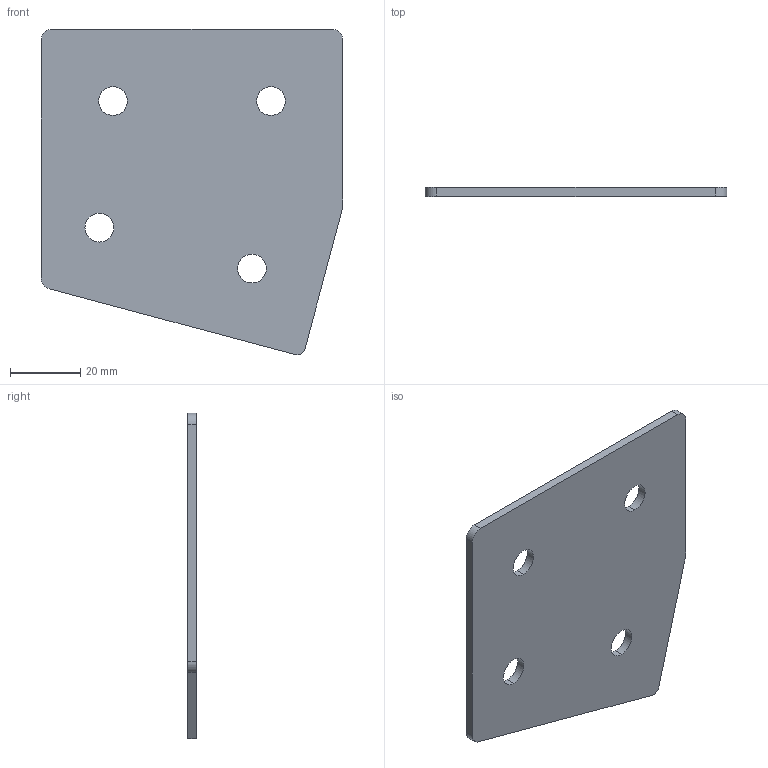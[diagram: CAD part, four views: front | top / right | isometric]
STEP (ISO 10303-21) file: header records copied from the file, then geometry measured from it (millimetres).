
FILE_DESCRIPTION (( 'STEP AP203' ), '1' );
FILE_NAME ('Ï-4-óãîë 15-45.STEP', '2016-07-23T15:58:14', ( '' ), ( '' ), 'SwSTEP 2.0', 'SolidWorks 2014', '' );
FILE_SCHEMA (( 'CONFIG_CONTROL_DESIGN' ));
Length unit declared in the file: millimetre
Products named in the file (1): Ï-4-óãîë 15-45
Bounding box: 86 x 2.5 x 92.8 mm (x, y, z)
Volume: 17043.4 mm3; surface area: 14709.3 mm2
Topology: 1 solids, 1 shells, 20 faces, 54 edges, 36 vertices
Faces by surface type: cylinder 13, plane 7
Entity records: 737 total; most frequent: DIRECTION 122, CARTESIAN_POINT 111, ORIENTED_EDGE 108, EDGE_CURVE 54, AXIS2_PLACEMENT_3D 47, VERTEX_POINT 36, EDGE_LOOP 28, LINE 28
